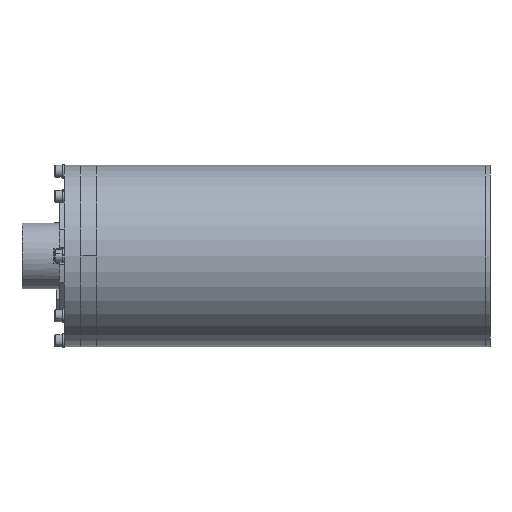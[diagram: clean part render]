
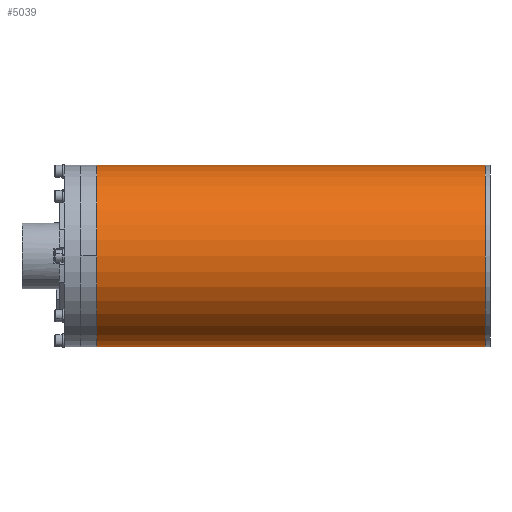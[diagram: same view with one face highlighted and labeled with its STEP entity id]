
A CAD part, front view. The second image highlights one B-rep face of the part: STEP entity #5039.
In plain terms, the highlighted cylindrical face has radius 34.925 mm (diameter 69.85 mm), a partial arc.
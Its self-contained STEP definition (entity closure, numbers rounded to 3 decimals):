
#554 = DIRECTION ( 'NONE',  ( -1., 0., 0. ) ) ;
#710 = EDGE_CURVE ( 'NONE', #997, #3381, #2871, .T. ) ;
#997 = VERTEX_POINT ( 'NONE', #5703 ) ;
#1352 = CARTESIAN_POINT ( 'NONE',  ( -121.285, -10.541, 34.925 ) ) ;
#1843 = EDGE_LOOP ( 'NONE', ( #3204, #2991, #8787, #9586 ) ) ;
#1861 = EDGE_CURVE ( 'NONE', #3381, #9927, #10048, .T. ) ;
#2047 = CARTESIAN_POINT ( 'NONE',  ( 27.94, -10.541, -34.925 ) ) ;
#2061 = CIRCLE ( 'NONE', #2690, 34.925 ) ;
#2690 = AXIS2_PLACEMENT_3D ( 'NONE', #8625, #11418, #8663 ) ;
#2871 = CIRCLE ( 'NONE', #6960, 34.925 ) ;
#2991 = ORIENTED_EDGE ( 'NONE', *, *, #7934, .T. ) ;
#3204 = ORIENTED_EDGE ( 'NONE', *, *, #710, .F. ) ;
#3381 = VERTEX_POINT ( 'NONE', #2047 ) ;
#3577 = DIRECTION ( 'NONE',  ( -1., 0., 0. ) ) ;
#3794 = VERTEX_POINT ( 'NONE', #1352 ) ;
#4028 = DIRECTION ( 'NONE',  ( 1., 0., 0. ) ) ;
#4180 = DIRECTION ( 'NONE',  ( -1., 0., 0. ) ) ;
#4383 = EDGE_CURVE ( 'NONE', #3794, #9927, #2061, .T. ) ;
#5039 = ADVANCED_FACE ( 'NONE', ( #7798 ), #8361, .T. ) ;
#5197 = CARTESIAN_POINT ( 'NONE',  ( 27.94, -10.541, 0. ) ) ;
#5474 = CARTESIAN_POINT ( 'NONE',  ( 27.94, -10.541, -34.925 ) ) ;
#5703 = CARTESIAN_POINT ( 'NONE',  ( 27.94, -10.541, 34.925 ) ) ;
#6960 = AXIS2_PLACEMENT_3D ( 'NONE', #9547, #4028, #7578 ) ;
#7578 = DIRECTION ( 'NONE',  ( 0., 0., -1. ) ) ;
#7785 = CARTESIAN_POINT ( 'NONE',  ( -121.285, -10.541, -34.925 ) ) ;
#7798 = FACE_OUTER_BOUND ( 'NONE', #1843, .T. ) ;
#7934 = EDGE_CURVE ( 'NONE', #997, #3794, #11680, .T. ) ;
#8361 = CYLINDRICAL_SURFACE ( 'NONE', #8963, 34.925 ) ;
#8625 = CARTESIAN_POINT ( 'NONE',  ( -121.285, -10.541, 0. ) ) ;
#8663 = DIRECTION ( 'NONE',  ( 0., 0., -1. ) ) ;
#8739 = VECTOR ( 'NONE', #3577, 1000. ) ;
#8787 = ORIENTED_EDGE ( 'NONE', *, *, #4383, .T. ) ;
#8897 = DIRECTION ( 'NONE',  ( 0., 0., -1. ) ) ;
#8963 = AXIS2_PLACEMENT_3D ( 'NONE', #5197, #4180, #8897 ) ;
#9547 = CARTESIAN_POINT ( 'NONE',  ( 27.94, -10.541, 0. ) ) ;
#9586 = ORIENTED_EDGE ( 'NONE', *, *, #1861, .F. ) ;
#9765 = CARTESIAN_POINT ( 'NONE',  ( 27.94, -10.541, 34.925 ) ) ;
#9927 = VERTEX_POINT ( 'NONE', #7785 ) ;
#10048 = LINE ( 'NONE', #5474, #8739 ) ;
#11106 = VECTOR ( 'NONE', #554, 1000. ) ;
#11418 = DIRECTION ( 'NONE',  ( 1., 0., 0. ) ) ;
#11680 = LINE ( 'NONE', #9765, #11106 ) ;
